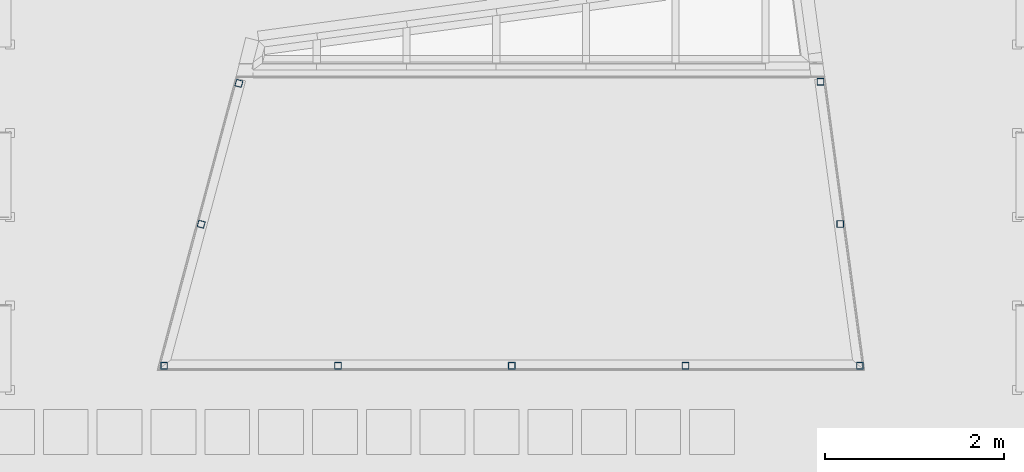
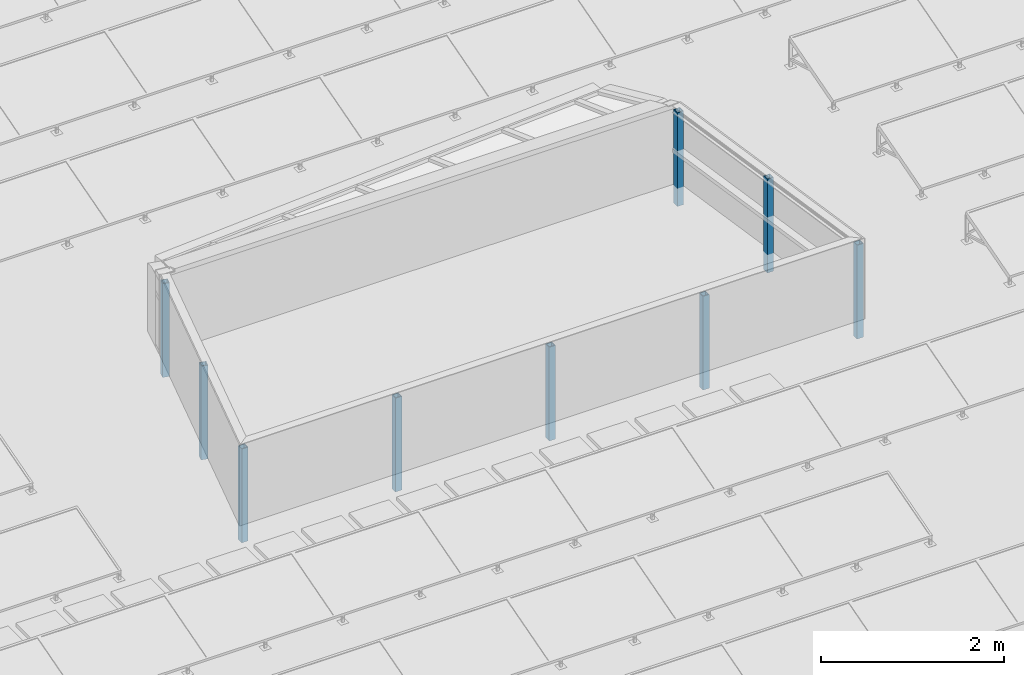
# One storey, part 6 of 20: 9 columns.
"""IFC2X3 building model written with IfcOpenShell, lengths in millimetres."""

from ifc_helpers import new_model, entity, si_unit, converted_unit, derived_unit, money_unit, direction, frame, origin_with_axes, place, context, subcontext, project, spatial, faceted_brep, material, type_object, element, save


model = new_model("IFC2X3")

# Units and contexts
model_context = context("Model", 3, precision=0.01, world=origin_with_axes(), true_north=direction((0.0, 1.0)))
plan_context = context("Plan", 3, precision=0.01, world=origin_with_axes(), true_north=direction((0.0, 1.0)))
body_context = subcontext(model_context, "Body", "Model", "MODEL_VIEW")
ifc_project = project(units=[si_unit("LENGTHUNIT", "METRE", prefix="MILLI"), si_unit("AREAUNIT", "SQUARE_METRE"), si_unit("VOLUMEUNIT", "CUBIC_METRE"), converted_unit("PLANEANGLEUNIT", "DEGREE", entity("IfcPlaneAngleMeasure", 0.0174532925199), si_unit("PLANEANGLEUNIT", "RADIAN"), dimensions=[0, 0, 0, 0, 0, 0, 0]), si_unit("SOLIDANGLEUNIT", "STERADIAN"), money_unit("EUR"), converted_unit("TIMEUNIT", "Year", entity("IfcTimeMeasure", 31556926.0), si_unit("TIMEUNIT", "SECOND"), dimensions=[0, 0, 1, 0, 0, 0, 0]), si_unit("MASSUNIT", "GRAM", prefix="KILO"), si_unit("THERMODYNAMICTEMPERATUREUNIT", "DEGREE_CELSIUS"), si_unit("LUMINOUSINTENSITYUNIT", "LUMEN"), si_unit("ENERGYUNIT", "JOULE", prefix="MEGA"), derived_unit("THERMALCONDUCTANCEUNIT", [(si_unit("POWERUNIT", "WATT"), 1), (si_unit("LENGTHUNIT", "METRE"), -1), (si_unit("THERMODYNAMICTEMPERATUREUNIT", "KELVIN"), -1)]), derived_unit("SPECIFICHEATCAPACITYUNIT", [(si_unit("ENERGYUNIT", "JOULE"), 1), (si_unit("MASSUNIT", "GRAM", prefix="KILO"), -1), (si_unit("THERMODYNAMICTEMPERATUREUNIT", "KELVIN"), -1)]), derived_unit("MASSDENSITYUNIT", [(si_unit("MASSUNIT", "GRAM", prefix="KILO"), 1), (si_unit("VOLUMEUNIT", "CUBIC_METRE"), -1)])], contexts=[model_context, plan_context])

# Site, building, storey
site_placement = place(None, origin_with_axes())
site = spatial("IfcSite", under=ifc_project, at=site_placement, Name="Site", CompositionType="ELEMENT")
building_placement = place(site_placement, origin_with_axes())
building = spatial("IfcBuilding", under=site, at=building_placement, Name="Naam gebouw", CompositionType="ELEMENT")
storey_placement = place(building_placement, frame((0.0, 0.0, 7920.0), z_axis=(0.0, 0.0, 1.0), x_axis=(1.0, 0.0, 0.0)))
storey = spatial("IfcBuildingStorey", under=building, at=storey_placement, Name="2e verdieping", CompositionType="ELEMENT", Elevation=7920.0)

# Columns
ifc_material = material(Name="Metaal - RVS")
column_type = type_object("IfcColumnType", Name="Profiel vierkant 80 x 80", PredefinedType="COLUMN")
for number, where, z_axis, x_axis, name in (
    (1, (21659.1174796, 35595.7727294, 0.0), (0.0, 0.0, 1.0), (1.0, 0.0, 0.0), "28_Kolom_Kolom-x"),
    (2, (14738.716713, 38743.3949698, 0.0), (0.0, 0.0, 1.0), (0.965925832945, -0.258819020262, 0.0), "28_Kolom_Kolom-x"),
    (3, (14318.1358051, 37173.7654912, 0.0), (0.0, 0.0, 1.0), (0.965925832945, -0.258819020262, 0.0), "28_Kolom_Kolom-x"),
    (4, (21220.4394713, 38760.8837213, 0.0), (0.0, 0.0, 1.0), (1.0, 0.0, 0.0), "28_Kolom_Kolom-x"),
    (5, (21440.0965436, 37176.0333276, 0.0), (0.0, 0.0, 1.0), (1.0, 0.0, 0.0), "28_Kolom_Kolom-x"),
    (6, (13905.7156117, 35595.7727294, 0.0), (0.0, 0.0, 1.0), (1.0, 0.0, 0.0), "28_Kolom_Kolom-x"),
    (7, (15842.7156117, 35595.7727294, 0.0), (0.0, 0.0, 1.0), (1.0, 0.0, 0.0), "28_Kolom_Kolom-x"),
    (8, (17779.7156117, 35595.7727294, 0.0), (0.0, 0.0, 1.0), (1.0, 0.0, 0.0), "28_Kolom_Kolom-x"),
    (9, (19716.7156117, 35595.7727294, 0.0), (0.0, 0.0, 1.0), (1.0, 0.0, 0.0), "28_Kolom_Kolom-x"),
):
    element("IfcColumn", number, at=place(storey_placement, frame(where, z_axis=z_axis, x_axis=x_axis)), inside=storey, type_object=column_type, material=ifc_material, Name=name, ObjectType="COLUMN", context=body_context, shape_type="Brep", body=[
        faceted_brep([(-40.0000052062, -40.0000069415, 1250.0), (-40.0000052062, -40.0000069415, 0.0), (40.0000052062, -40.0000069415, 0.0), (40.0000052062, -40.0000069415, 1250.0), (-40.0000052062, 40.0000069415, 1250.0), (-40.0000052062, 40.0000069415, 0.0), (40.0000052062, 40.0000069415, 0.0), (-31.9999687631, 31.9999704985, 0.0), (-31.9999687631, -31.9999704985, 0.0), (31.9999687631, -31.9999704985, 0.0), (31.9999687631, 31.9999704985, 0.0), (40.0000052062, 40.0000069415, 1250.0), (31.9999687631, -31.9999704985, 1250.0), (-31.9999687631, -31.9999704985, 1250.0), (-31.9999687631, 31.9999704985, 1250.0), (31.9999687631, 31.9999704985, 1250.0)], [[[0, 1, 2, 3]], [[4, 5, 1, 0]], [[2, 1, 5, 6], [7, 8, 9, 10]], [[3, 2, 6, 11]], [[4, 0, 3, 11], [12, 13, 14, 15]], [[11, 6, 5, 4]], [[13, 8, 7, 14]], [[12, 9, 8, 13]], [[15, 10, 9, 12]], [[14, 7, 10, 15]]]),
    ])

save(model, "model.ifc")
